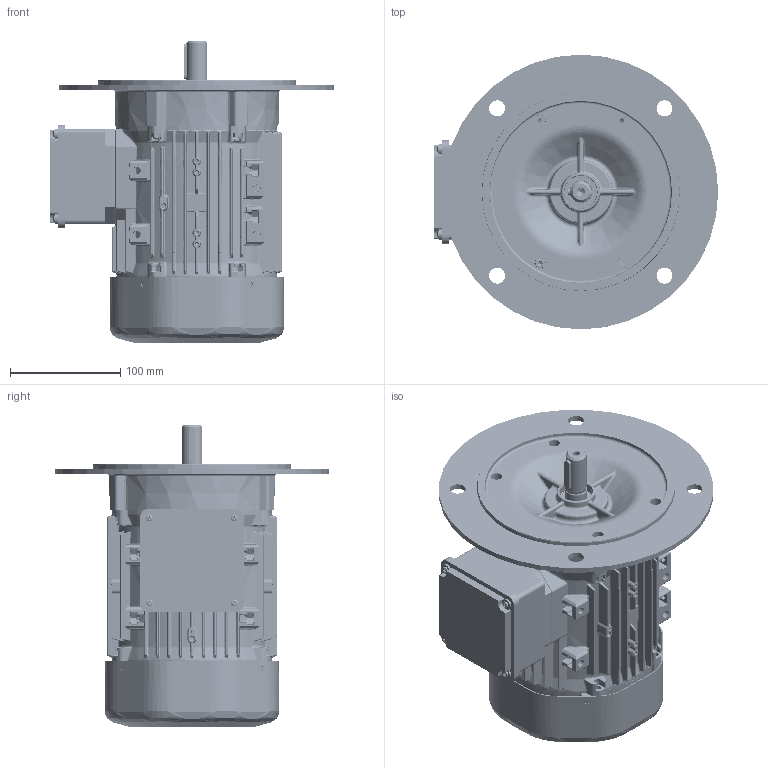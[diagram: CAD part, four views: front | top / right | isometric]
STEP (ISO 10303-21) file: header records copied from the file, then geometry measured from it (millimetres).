
FILE_DESCRIPTION(/* description */ (''),/* implementation_level */ '2;1');
FILE_NAME(/* name */ 'OUTLOOK VIEW QH80 FA B5 - BIGGER FF215 SPL.stp',/* time_stamp */ '2021-09-21T12:33:21+03:00',/* author */ (''),/* organization */ (''),/* preprocessor_version */ 'ST-DEVELOPER v16',/* originating_system */ 'SIEMENS PLM Software NX 11.0',/* authorisation */ '');
FILE_SCHEMA (('AUTOMOTIVE_DESIGN { 1 0 10303 214 3 1 1 1 }'));
Products named in the file (1): 260652D491E0rw7s
Bounding box: 258.25 x 249.5 x 275 mm (x, y, z)
Volume: 2636183.7 mm3; surface area: 1069786.4 mm2
Topology: 46 solids, 50 shells, 10847 faces, 26308 edges, 15056 vertices
Faces by surface type: bspline 3549, cylinder 2988, plane 2196, sphere 773, torus 683, cone 641, extrusion 17
Full cylindrical faces by diameter (mm): 0.1 x2, 3.3 x5, 3.5 x4, 3.985 x3, 4 x4, 4.2 x1, 4.22 x3, 4.5 x4, 5 x5, 5.5 x4, 6 x1, 6.4 x1, 6.6 x1, 8 x1, 8.5 x1, 10 x4, 14.5 x4, 18.38 x2, 18.4 x1, 19 x3, 19.4 x2, 20 x6, 20.2 x2, 20.5 x1, 25 x2, 28.8 x8, 30 x3, 38.45 x4, 40.59 x8, 47 x6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
Entity records: 438861 total; most frequent: CARTESIAN_POINT 167040, ORIENTED_EDGE 50208, DIRECTION 44694, EDGE_CURVE 25104, AXIS2_PLACEMENT_3D 18693, VERTEX_POINT 14870, EDGE_LOOP 11836, ADVANCED_FACE 10843
